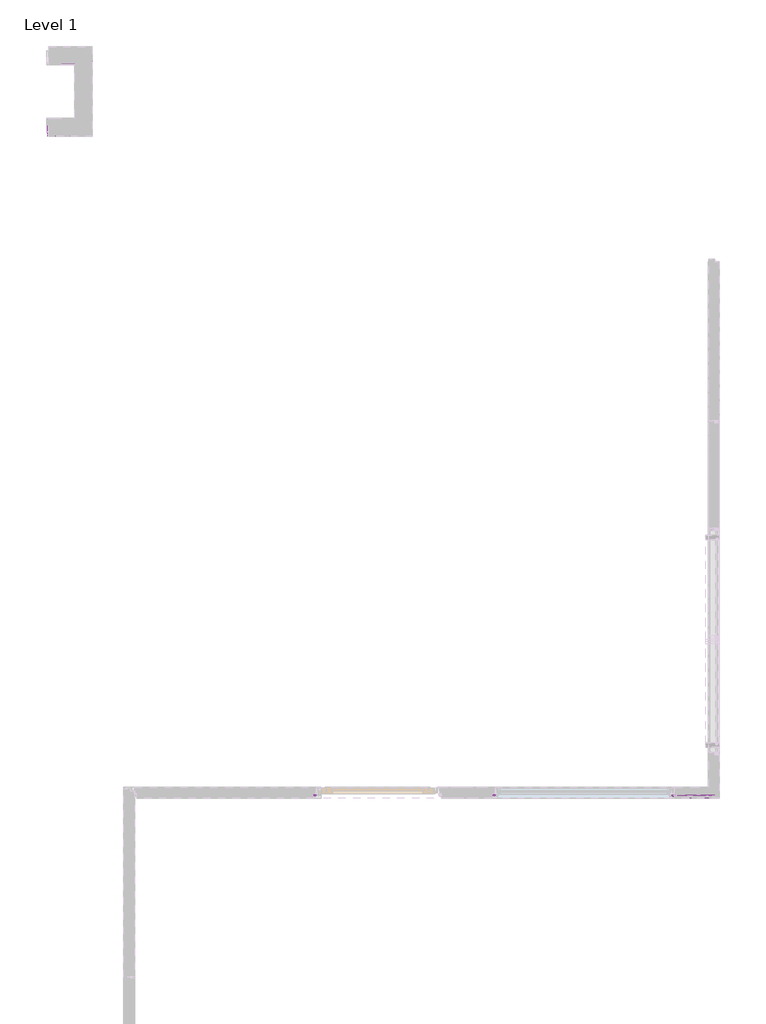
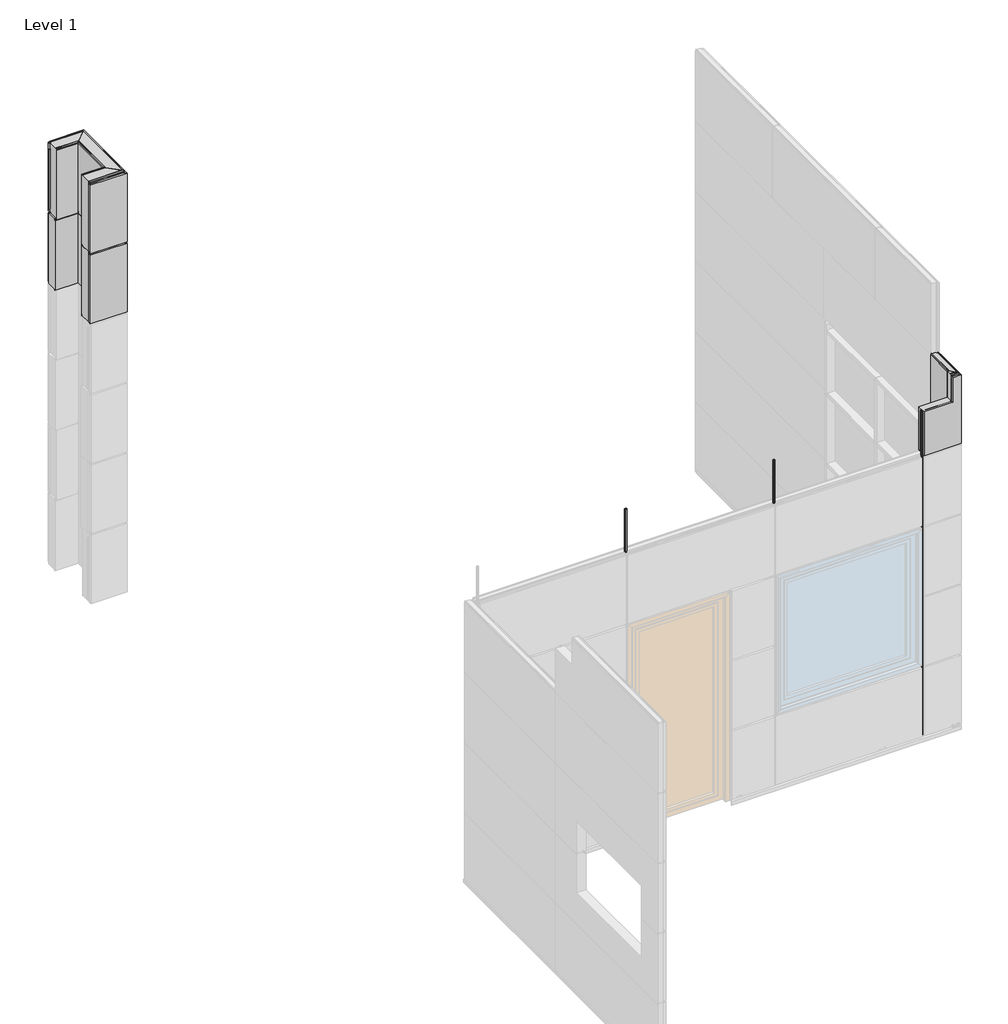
# One storey, part 2 of 8: 7 members, 5 plates.
"""IFC4 building model written with IfcOpenShell, lengths in millimetres."""

from ifc_helpers import new_model, si_unit, point, frame, frame_2d, origin, place, context, project, spatial, polyline, circle_curve, trimmed, segment, composite_curve, outline, extrude, faceted_brep, transform, mapped, element, save
from components import rectangular_mullion_dd22ac08, tr_empty_empty_edf3b101

model = new_model("IFC4")

# Units and contexts
model_context = context("Model", 3, world=origin())
ifc_project = project(units=[si_unit("LENGTHUNIT", "METRE", prefix="MILLI")], contexts=[model_context])

# Site, building, storey
site = spatial("IfcSite", under=ifc_project)
building = spatial("IfcBuilding", under=site)
storey = spatial("IfcBuildingStorey", under=building, Name="Level 1", Elevation=0.0)

# Members
placement = place(None, origin())
element("IfcMember", 1, ObjectType="Rectangular Mullion : QO-H-01_01 Joint", at=placement, inside=storey, context=model_context, shape_type="SweptSolid", body=[
    extrude(outline(composite_curve([segment(polyline([(-517.6475876, -11965.4839195), (-519.1626133, -11965.4839195), (-517.3497844, -11964.1240593), (-517.3497844, -11963.3240593), (-519.3513097, -11963.3240593), (-519.3513097, -11965.782847), (-518.2830771, -11965.782847), (-518.2830771, -11973.5607913)]), True, "CONTINUOUS"), segment(trimmed(circle_curve(frame_2d((-518.7824538, -11973.5849856)), 0.4999625), [point((-518.2830771, -11973.5607913))], [point((-518.7824538, -11974.0849481))], False, "CARTESIAN"), True, "CONTINUOUS"), segment(polyline([(-518.7824538, -11974.0849481), (-529.4962599, -11974.0849481), (-529.4962599, -11963.909622)]), True, "CONTINUOUS"), segment(trimmed(circle_curve(frame_2d((-528.8962599, -11963.909622)), 0.6), [point((-529.4962599, -11963.909622))], [point((-528.8962599, -11963.309622))], False, "CARTESIAN"), True, "CONTINUOUS"), segment(polyline([(-528.8962599, -11963.309622), (-523.3577362, -11963.309622), (-523.3577362, -11960.4941793), (-525.9563372, -11960.4941793), (-524.4175879, -11956.2506178), (-521.3943655, -11959.7995502), (-512.6008097, -11959.7995502), (-509.5775874, -11956.2506178), (-508.038838, -11960.4941793), (-510.637439, -11960.4941793), (-510.637439, -11963.309622), (-505.0989153, -11963.309622)]), True, "CONTINUOUS"), segment(trimmed(circle_curve(frame_2d((-505.0989153, -11963.909622)), 0.6), [point((-505.0989153, -11963.309622))], [point((-504.4989153, -11963.909622))], False, "CARTESIAN"), True, "CONTINUOUS"), segment(polyline([(-504.4989153, -11963.909622), (-504.4989153, -11974.0849481), (-515.2127214, -11974.0849481)]), True, "CONTINUOUS"), segment(trimmed(circle_curve(frame_2d((-515.2127214, -11973.5849856)), 0.4999625), [point((-515.2127214, -11974.0849481))], [point((-515.7120981, -11973.5607913))], False, "CARTESIAN"), True, "CONTINUOUS"), segment(polyline([(-515.7120981, -11973.5607913), (-515.7120981, -11965.782847), (-514.6438655, -11965.782847), (-514.6438655, -11963.3240593), (-516.6453908, -11963.3240593), (-516.6453908, -11964.1240593), (-514.8325619, -11965.4839195), (-516.3475876, -11965.4839195), (-516.3475876, -11974.5972287), (-508.6794739, -11974.5972287), (-507.1474985, -11975.5216377)]), True, "CONTINUOUS"), segment(trimmed(circle_curve(frame_2d((-507.3076572, -11975.7870604)), 0.31), [point((-507.1474985, -11975.5216377))], [point((-507.3076572, -11976.0970604))], False, "CARTESIAN"), True, "CONTINUOUS"), segment(polyline([(-507.3076572, -11976.0970604), (-526.6876801, -11976.0970604)]), True, "CONTINUOUS"), segment(trimmed(circle_curve(frame_2d((-526.6876801, -11975.7870604)), 0.31), [point((-526.6876801, -11976.0970604))], [point((-526.8478388, -11975.5216377))], False, "CARTESIAN"), True, "CONTINUOUS"), segment(polyline([(-526.8478388, -11975.5216377), (-525.3158634, -11974.5972287), (-517.6475876, -11974.5972287), (-517.6475876, -11965.4839195)]), True, "CONTINUOUS")], self_intersect=False)), frame((0.0, 0.0, 4150.0), z_axis=(0.0, 0.0, 1.0), x_axis=(1.0, 0.0, 0.0)), (0.0, 0.0, 1.0), 620.0),
])
element("IfcMember", 2, ObjectType="Rectangular Mullion : QO-H-01_01 Joint", at=placement, inside=storey, context=model_context, shape_type="SweptSolid", body=[
    extrude(outline(composite_curve([segment(polyline([(-4516.1475879, -11965.4839195), (-4517.6626136, -11965.4839195), (-4515.8497847, -11964.1240593), (-4515.8497847, -11963.3240593), (-4517.85131, -11963.3240593), (-4517.85131, -11965.782847), (-4516.7830774, -11965.782847), (-4516.7830774, -11973.5607913)]), True, "CONTINUOUS"), segment(trimmed(circle_curve(frame_2d((-4517.2824541, -11973.5849856)), 0.4999625), [point((-4516.7830774, -11973.5607913))], [point((-4517.2824541, -11974.0849481))], False, "CARTESIAN"), True, "CONTINUOUS"), segment(polyline([(-4517.2824541, -11974.0849481), (-4527.9962602, -11974.0849481), (-4527.9962602, -11963.909622)]), True, "CONTINUOUS"), segment(trimmed(circle_curve(frame_2d((-4527.3962602, -11963.909622)), 0.6), [point((-4527.9962602, -11963.909622))], [point((-4527.3962602, -11963.309622))], False, "CARTESIAN"), True, "CONTINUOUS"), segment(polyline([(-4527.3962602, -11963.309622), (-4521.8577365, -11963.309622), (-4521.8577365, -11960.4941793), (-4524.4563375, -11960.4941793), (-4522.9175882, -11956.2506178), (-4519.8943658, -11959.7995502), (-4511.10081, -11959.7995502), (-4508.0775877, -11956.2506178), (-4506.5388383, -11960.4941793), (-4509.1374393, -11960.4941793), (-4509.1374393, -11963.309622), (-4503.5989156, -11963.309622)]), True, "CONTINUOUS"), segment(trimmed(circle_curve(frame_2d((-4503.5989156, -11963.909622)), 0.6), [point((-4503.5989156, -11963.309622))], [point((-4502.9989156, -11963.909622))], False, "CARTESIAN"), True, "CONTINUOUS"), segment(polyline([(-4502.9989156, -11963.909622), (-4502.9989156, -11974.0849481), (-4513.7127217, -11974.0849481)]), True, "CONTINUOUS"), segment(trimmed(circle_curve(frame_2d((-4513.7127217, -11973.5849856)), 0.4999625), [point((-4513.7127217, -11974.0849481))], [point((-4514.2120984, -11973.5607913))], False, "CARTESIAN"), True, "CONTINUOUS"), segment(polyline([(-4514.2120984, -11973.5607913), (-4514.2120984, -11965.782847), (-4513.1438658, -11965.782847), (-4513.1438658, -11963.3240593), (-4515.1453911, -11963.3240593), (-4515.1453911, -11964.1240593), (-4513.3325622, -11965.4839195), (-4514.8475879, -11965.4839195), (-4514.8475879, -11974.5972287), (-4507.1794742, -11974.5972287), (-4505.6474988, -11975.5216377)]), True, "CONTINUOUS"), segment(trimmed(circle_curve(frame_2d((-4505.8076575, -11975.7870604)), 0.31), [point((-4505.6474988, -11975.5216377))], [point((-4505.8076575, -11976.0970604))], False, "CARTESIAN"), True, "CONTINUOUS"), segment(polyline([(-4505.8076575, -11976.0970604), (-4525.1876804, -11976.0970604)]), True, "CONTINUOUS"), segment(trimmed(circle_curve(frame_2d((-4525.1876804, -11975.7870604)), 0.31), [point((-4525.1876804, -11976.0970604))], [point((-4525.3478391, -11975.5216377))], False, "CARTESIAN"), True, "CONTINUOUS"), segment(polyline([(-4525.3478391, -11975.5216377), (-4523.8158637, -11974.5972287), (-4516.1475879, -11974.5972287), (-4516.1475879, -11965.4839195)]), True, "CONTINUOUS")], self_intersect=False)), frame((0.0, 0.0, 4150.0), z_axis=(0.0, 0.0, 1.0), x_axis=(1.0, 0.0, 0.0)), (0.0, 0.0, 1.0), 620.0),
])
element("IfcMember", 3, ObjectType="Rectangular Mullion : QO-H-01_01 Joint", at=placement, inside=storey, context=model_context, shape_type="SweptSolid", body=[
    extrude(outline(composite_curve([segment(polyline([(-2516.1475879, -11965.4839195), (-2517.6626136, -11965.4839195), (-2515.8497847, -11964.1240593), (-2515.8497847, -11963.3240593), (-2517.85131, -11963.3240593), (-2517.85131, -11965.782847), (-2516.7830774, -11965.782847), (-2516.7830774, -11973.5607913)]), True, "CONTINUOUS"), segment(trimmed(circle_curve(frame_2d((-2517.2824541, -11973.5849856)), 0.4999625), [point((-2516.7830774, -11973.5607913))], [point((-2517.2824541, -11974.0849481))], False, "CARTESIAN"), True, "CONTINUOUS"), segment(polyline([(-2517.2824541, -11974.0849481), (-2527.9962602, -11974.0849481), (-2527.9962602, -11963.909622)]), True, "CONTINUOUS"), segment(trimmed(circle_curve(frame_2d((-2527.3962602, -11963.909622)), 0.6), [point((-2527.9962602, -11963.909622))], [point((-2527.3962602, -11963.309622))], False, "CARTESIAN"), True, "CONTINUOUS"), segment(polyline([(-2527.3962602, -11963.309622), (-2521.8577365, -11963.309622), (-2521.8577365, -11960.4941793), (-2524.4563375, -11960.4941793), (-2522.9175882, -11956.2506178), (-2519.8943658, -11959.7995502), (-2511.10081, -11959.7995502), (-2508.0775877, -11956.2506178), (-2506.5388383, -11960.4941793), (-2509.1374393, -11960.4941793), (-2509.1374393, -11963.309622), (-2503.5989156, -11963.309622)]), True, "CONTINUOUS"), segment(trimmed(circle_curve(frame_2d((-2503.5989156, -11963.909622)), 0.6), [point((-2503.5989156, -11963.309622))], [point((-2502.9989156, -11963.909622))], False, "CARTESIAN"), True, "CONTINUOUS"), segment(polyline([(-2502.9989156, -11963.909622), (-2502.9989156, -11974.0849481), (-2513.7127217, -11974.0849481)]), True, "CONTINUOUS"), segment(trimmed(circle_curve(frame_2d((-2513.7127217, -11973.5849856)), 0.4999625), [point((-2513.7127217, -11974.0849481))], [point((-2514.2120984, -11973.5607913))], False, "CARTESIAN"), True, "CONTINUOUS"), segment(polyline([(-2514.2120984, -11973.5607913), (-2514.2120984, -11965.782847), (-2513.1438658, -11965.782847), (-2513.1438658, -11963.3240593), (-2515.1453911, -11963.3240593), (-2515.1453911, -11964.1240593), (-2513.3325622, -11965.4839195), (-2514.8475879, -11965.4839195), (-2514.8475879, -11974.5972287), (-2507.1794742, -11974.5972287), (-2505.6474988, -11975.5216377)]), True, "CONTINUOUS"), segment(trimmed(circle_curve(frame_2d((-2505.8076575, -11975.7870604)), 0.31), [point((-2505.6474988, -11975.5216377))], [point((-2505.8076575, -11976.0970604))], False, "CARTESIAN"), True, "CONTINUOUS"), segment(polyline([(-2505.8076575, -11976.0970604), (-2525.1876804, -11976.0970604)]), True, "CONTINUOUS"), segment(trimmed(circle_curve(frame_2d((-2525.1876804, -11975.7870604)), 0.31), [point((-2525.1876804, -11976.0970604))], [point((-2525.3478391, -11975.5216377))], False, "CARTESIAN"), True, "CONTINUOUS"), segment(polyline([(-2525.3478391, -11975.5216377), (-2523.8158637, -11974.5972287), (-2516.1475879, -11974.5972287), (-2516.1475879, -11965.4839195)]), True, "CONTINUOUS")], self_intersect=False)), frame((0.0, 0.0, 4150.0), z_axis=(0.0, 0.0, 1.0), x_axis=(1.0, 0.0, 0.0)), (0.0, 0.0, 1.0), 620.0),
])
rectangular_mullion_shape = rectangular_mullion_dd22ac08(model_context)
element("IfcMember", 4, ObjectType="Rectangular Mullion : QO-H-01_01 Joint", at=placement, inside=storey, context=model_context, shape_type="MappedRepresentation", body=[
    mapped(rectangular_mullion_shape, transform((-517.0, -12000.1, 150.0), x_axis=(-1.0, 0.0, 0.0), y_axis=(0.0, 1.0, 0.0), z_axis=(0.0, 0.0, -1.0))),
])
element("IfcMember", 5, ObjectType="Rectangular Mullion : QO-H-01_01 Joint", at=placement, inside=storey, context=model_context, shape_type="MappedRepresentation", body=[
    mapped(rectangular_mullion_shape, transform((-517.0, -12000.1, 1150.0), x_axis=(-1.0, 0.0, 0.0), y_axis=(0.0, 1.0, 0.0), z_axis=(0.0, 0.0, -1.0))),
])
element("IfcMember", 6, ObjectType="Rectangular Mullion : QO-H-01_01 Joint", at=placement, inside=storey, context=model_context, shape_type="MappedRepresentation", body=[
    mapped(rectangular_mullion_shape, transform((-517.0, -12000.1, 2150.0), x_axis=(-1.0, 0.0, 0.0), y_axis=(0.0, 1.0, 0.0), z_axis=(0.0, 0.0, -1.0))),
])
element("IfcMember", 7, ObjectType="Rectangular Mullion : QO-H-01_01 Joint", at=placement, inside=storey, context=model_context, shape_type="MappedRepresentation", body=[
    mapped(rectangular_mullion_shape, transform((-517.0, -12000.1, 3150.0), x_axis=(-1.0, 0.0, 0.0), y_axis=(0.0, 1.0, 0.0), z_axis=(0.0, 0.0, -1.0))),
])

# Plates
element("IfcPlate", 8, ObjectType="TR_C_H_QBISS_Corner_Tr_A : QB TYP 1", at=placement, inside=storey, context=model_context, shape_type="SolidModel", body=[
    faceted_brep([(-24.0, -11512.8, 5144.5), (-24.0, -11512.8, 5124.5), (-25.4998317, -11512.8, 5124.5), (-25.4998317, -11512.8, 5131.3023028), (-27.9998293, -11512.8, 5131.3023028), (-27.9998293, -11512.8, 5130.5023028), (-28.7998428, -11512.8, 5130.5023028), (-28.7998428, -11512.8, 5138.5023593), (-27.9998293, -11512.8, 5138.5023593), (-27.9998293, -11512.8, 5137.7023593), (-25.4998317, -11512.8, 5137.7023593), (-25.4998317, -11512.8, 5144.5), (-25.4998317, -11974.6001683, 5144.5), (-120.0, -11974.6001683, 5144.5), (-120.0, -11976.1, 5144.5), (-24.0, -11976.1, 5144.5), (-25.4998317, -11974.6001683, 5137.7023593), (-120.0, -11974.6001683, 5137.7023593), (-27.9998293, -11972.1001707, 5137.7023593), (-120.0, -11972.1001707, 5137.7023593), (-27.9998293, -11972.1001707, 5138.5023593), (-120.0, -11972.1001707, 5138.5023593), (-28.7998428, -11971.3001572, 5138.5023593), (-120.0, -11971.3001572, 5138.5023593), (-28.7998428, -11971.3001572, 5130.5023028), (-120.0, -11971.3001572, 5130.5023028), (-27.9998293, -11972.1001707, 5130.5023028), (-120.0, -11972.1001707, 5130.5023028), (-27.9998293, -11972.1001707, 5131.3023028), (-120.0, -11972.1001707, 5131.3023028), (-25.4998317, -11974.6001683, 5131.3023028), (-120.0, -11974.6001683, 5131.3023028), (-25.4998317, -11974.6001683, 5124.5), (-120.0, -11974.6001683, 5124.5), (-24.0, -11976.1, 5124.5), (-120.0, -11976.1, 5124.5)], [[[0, 1, 2, 3, 4, 5, 6, 7, 8, 9, 10, 11]], [[0, 11, 12, 13, 14, 15]], [[12, 16, 17, 13]], [[10, 9, 18, 19, 17, 16]], [[18, 20, 21, 19]], [[8, 7, 22, 23, 21, 20]], [[22, 24, 25, 23]], [[6, 5, 26, 27, 25, 24]], [[26, 28, 29, 27]], [[4, 3, 30, 31, 29, 28]], [[30, 32, 33, 31]], [[2, 1, 34, 35, 33, 32]], [[34, 15, 14, 35]], [[11, 10, 16, 12]], [[9, 8, 20, 18]], [[7, 6, 24, 22]], [[5, 4, 28, 26]], [[3, 2, 32, 30]], [[1, 0, 15, 34]], [[14, 13, 17, 19, 21, 23, 25, 27, 29, 31, 33, 35]]]),
    faceted_brep([(-108.0, -11487.7, 4150.0), (-108.0, -11487.7, 4163.0), (-114.0, -11487.7, 4163.0), (-114.0, -11487.7, 4142.0), (-120.0, -11487.7, 4142.0), (-120.0, -11487.7, 5136.0), (-114.0, -11487.7, 5142.0), (-114.0, -11487.7, 5160.0), (-108.0, -11487.7, 5160.0), (-108.0, -11487.7, 5150.0), (-49.0, -11487.7, 5150.0), (-49.0, -11487.7, 4150.0), (-49.0, -11512.8, 4150.0), (-39.0, -11512.8, 4150.0), (-39.0, -11961.1, 4150.0), (-108.0, -11892.1, 4150.0), (-39.0, -11512.8, 4163.0), (-39.0, -11961.1, 4163.0), (-29.0, -11512.8, 4163.0), (-29.0, -11971.1, 4163.0), (-29.0, -11512.8, 4146.0), (-29.0, -11971.1, 4146.0), (0.0, -11512.8, 4146.0), (0.0, -12000.1, 4146.0), (0.0, -11512.8, 5123.0), (0.0, -12000.1, 5123.0), (-29.0, -11512.8, 5123.0), (-29.0, -11971.1, 5123.0), (-29.0, -11512.8, 5160.0), (-29.0, -11971.1, 5160.0), (-39.0, -11512.8, 5160.0), (-39.0, -11961.1, 5160.0), (-39.0, -11512.8, 5150.0), (-39.0, -11961.1, 5150.0), (-108.0, -11892.1, 5150.0), (-49.0, -11512.8, 5150.0), (-108.0, -11892.1, 5160.0), (-114.0, -11886.1, 5160.0), (-114.0, -11886.1, 5142.0), (-120.0, -11880.1, 5136.0), (-120.0, -11880.1, 4142.0), (-114.0, -11886.1, 4142.0), (-114.0, -11886.1, 4163.0), (-108.0, -11892.1, 4163.0)], [[[0, 1, 2, 3, 4, 5, 6, 7, 8, 9, 10, 11]], [[0, 11, 12, 13, 14, 15]], [[13, 16, 17, 14]], [[16, 18, 19, 17]], [[18, 20, 21, 19]], [[22, 23, 21, 20]], [[23, 22, 24, 25]], [[25, 24, 26, 27]], [[26, 28, 29, 27]], [[28, 30, 31, 29]], [[30, 32, 33, 31]], [[10, 9, 34, 33, 32, 35]], [[9, 8, 36, 34]], [[8, 7, 37, 36]], [[7, 6, 38, 37]], [[6, 5, 39, 38]], [[5, 4, 40, 39]], [[4, 3, 41, 40]], [[3, 2, 42, 41]], [[2, 1, 43, 42]], [[1, 0, 15, 43]], [[35, 12, 11, 10]], [[12, 35, 32, 30, 28, 26, 24, 22, 20, 18, 16, 13]], [[15, 14, 17, 19, 21, 23, 25, 27, 29, 31, 33, 34, 36, 37, 38, 39, 40, 41, 42, 43]]]),
    faceted_brep([(-504.5, -11880.1, 4142.0), (-504.5, -11886.1, 4142.0), (-504.5, -11886.1, 4163.0), (-504.5, -11892.1, 4163.0), (-504.5, -11892.1, 4150.0), (-504.5, -11951.1, 4150.0), (-504.5, -11951.1, 4770.0), (-504.5, -11880.1, 4770.0), (-120.0, -11880.1, 4142.0), (-114.0, -11886.1, 4142.0), (-114.0, -11886.1, 4163.0), (-108.0, -11892.1, 4163.0), (-108.0, -11892.1, 4150.0), (-39.0, -11961.1, 4150.0), (-504.3, -11961.1, 4150.0), (-504.3, -11951.1, 4150.0), (-39.0, -11961.1, 4163.0), (-504.3, -11961.1, 4163.0), (-29.0, -11971.1, 4163.0), (-504.3, -11971.1, 4163.0), (-29.0, -11971.1, 4146.0), (-504.3, -11971.1, 4146.0), (0.0, -12000.1, 4146.0), (-504.3, -12000.1, 4146.0), (0.0, -12000.1, 5123.0), (-120.0, -12000.1, 5123.0), (-120.0, -12000.1, 4770.0), (-504.3, -12000.1, 4770.0), (-29.0, -11971.1, 5123.0), (-120.0, -11971.1, 5123.0), (-29.0, -11971.1, 5160.0), (-120.0, -11971.1, 5160.0), (-39.0, -11961.1, 5160.0), (-120.0, -11961.1, 5160.0), (-39.0, -11961.1, 5150.0), (-120.0, -11961.1, 5150.0), (-108.0, -11892.1, 5150.0), (-120.0, -11892.1, 5150.0), (-108.0, -11892.1, 5160.0), (-120.0, -11892.1, 5160.0), (-114.0, -11886.1, 5160.0), (-120.0, -11886.1, 5160.0), (-114.0, -11886.1, 5142.0), (-120.0, -11886.1, 5142.0), (-120.0, -11880.1, 5136.0), (-120.0, -11880.1, 4770.0), (-504.3, -11951.1, 4770.0)], [[[0, 1, 2, 3, 4, 5, 6, 7]], [[1, 0, 8, 9]], [[2, 1, 9, 10]], [[3, 2, 10, 11]], [[4, 3, 11, 12]], [[5, 4, 12, 13, 14, 15]], [[14, 13, 16, 17]], [[17, 16, 18, 19]], [[19, 18, 20, 21]], [[21, 20, 22, 23]], [[23, 22, 24, 25, 26, 27]], [[24, 28, 29, 25]], [[28, 30, 31, 29]], [[30, 32, 33, 31]], [[32, 34, 35, 33]], [[34, 36, 37, 35]], [[36, 38, 39, 37]], [[38, 40, 41, 39]], [[40, 42, 43, 41]], [[42, 44, 43]], [[8, 0, 7, 45]], [[5, 15, 46, 6]], [[15, 14, 17, 19, 21, 23, 27, 46]], [[9, 8, 45, 44, 42, 40, 38, 36, 34, 32, 30, 28, 24, 22, 20, 18, 16, 13, 12, 11, 10]], [[45, 26, 25, 29, 31, 33, 35, 37, 39, 41, 43, 44]], [[26, 45, 7, 6, 46, 27]]]),
    extrude(outline(polyline([(-529.5, -11951.1), (-504.3, -11951.1), (-504.3, -11951.9261798), (-528.7, -11951.9261798), (-528.7, -11956.1), (-529.5, -11956.1), (-529.5, -11951.1)])), frame((0.0, 0.0, 4204.0), z_axis=(0.0, 0.0, 1.0), x_axis=(1.0, 0.0, 0.0)), (0.0, 0.0, 1.0), 566.0),
])
element("IfcPlate", 9, ObjectType="TR_C_H_QBISS_U_Corner_Tr : QB TYP 5", at=placement, inside=storey, context=model_context, shape_type="Brep", body=[
    faceted_brep([(-7499.8, -4586.100171, 4988.5023593), (-7499.8, -4586.100171, 4987.7023593), (-7027.9998293, -4586.100171, 4987.7023593), (-7027.9998293, -4586.100171, 4988.5023593), (-7499.8, -4588.6001686, 4981.3023028), (-7499.8, -4586.100171, 4981.3023028), (-7027.9998293, -4586.100171, 4981.3023028), (-7027.9998293, -3642.0998296, 4981.3023028), (-7487.3, -3642.0998296, 4981.3023028), (-7487.3, -3639.599832, 4981.3023028), (-7025.4998317, -3639.599832, 4981.3023028), (-7025.4998317, -4588.6001686, 4981.3023028), (-7499.8, -4590.1000003, 4994.5), (-7499.8, -4588.6001686, 4994.5), (-7499.8, -4588.6001686, 4987.7023593), (-7499.8, -4585.3001575, 4988.5023593), (-7499.8, -4585.3001575, 4980.5023028), (-7499.8, -4586.100171, 4980.5023028), (-7499.8, -4588.6001686, 4974.5), (-7499.8, -4590.1000003, 4974.5), (-7024.0, -4590.1000003, 4994.5), (-7024.0, -3638.1000003, 4994.5), (-7487.3, -3638.1000003, 4994.5), (-7487.3, -3639.599832, 4994.5), (-7025.4998317, -3639.599832, 4994.5), (-7025.4998317, -4588.6001686, 4994.5), (-7025.4998317, -3639.599832, 4974.5), (-7487.3, -3639.599832, 4974.5), (-7487.3, -3638.1000003, 4974.5), (-7487.3, -3642.0998296, 4980.5023028), (-7487.3, -3642.8998431, 4980.5023028), (-7487.3, -3642.8998431, 4988.5023593), (-7487.3, -3642.0998296, 4988.5023593), (-7487.3, -3642.0998296, 4987.7023593), (-7487.3, -3639.599832, 4987.7023593), (-7025.4998317, -4588.6001686, 4987.7023593), (-7025.4998317, -3639.599832, 4987.7023593), (-7027.9998293, -3642.0998296, 4987.7023593), (-7027.9998293, -3642.0998296, 4988.5023593), (-7028.7998428, -3642.8998431, 4988.5023593), (-7028.7998428, -4585.3001575, 4988.5023593), (-7028.7998428, -4585.3001575, 4980.5023028), (-7028.7998428, -3642.8998431, 4980.5023028), (-7027.9998293, -3642.0998296, 4980.5023028), (-7027.9998293, -4586.100171, 4980.5023028), (-7025.4998317, -4588.6001686, 4974.5), (-7024.0, -3638.1000003, 4974.5), (-7024.0, -4590.1000003, 4974.5)], [[[0, 1, 2, 3]], [[4, 5, 6, 7, 8, 9, 10, 11]], [[12, 13, 14, 1, 0, 15, 16, 17, 5, 4, 18, 19]], [[13, 12, 20, 21, 22, 23, 24, 25]], [[26, 10, 9, 27]], [[22, 28, 27, 9, 8, 29, 30, 31, 32, 33, 34, 23]], [[14, 13, 25, 35]], [[1, 14, 35, 36, 34, 33, 37, 2]], [[15, 0, 3, 38, 32, 31, 39, 40]], [[16, 15, 40, 41]], [[17, 16, 41, 42, 30, 29, 43, 44]], [[5, 17, 44, 6]], [[18, 4, 11, 45]], [[19, 18, 45, 26, 27, 28, 46, 47]], [[12, 19, 47, 20]], [[35, 25, 24, 36]], [[3, 2, 37, 38]], [[41, 40, 39, 42]], [[6, 44, 43, 7]], [[45, 11, 10, 26]], [[20, 47, 46, 21]], [[36, 24, 23, 34]], [[38, 37, 33, 32]], [[42, 39, 31, 30]], [[7, 43, 29, 8]], [[21, 46, 28, 22]]]),
    faceted_brep([(-7039.0, -4575.1000003, 4000.0), (-7188.0, -4426.1000003, 4000.0), (-7188.0, -3802.1000003, 4000.0), (-7039.0, -3653.1000003, 4000.0), (-7039.0, -4575.1000003, 4013.0), (-7039.0, -3653.1000003, 4013.0), (-7029.0, -4585.1000003, 4013.0), (-7029.0, -3643.1000003, 4013.0), (-7029.0, -4585.1000003, 3996.0), (-7029.0, -3643.1000003, 3996.0), (-7000.0, -3614.1000003, 3996.0), (-7000.0, -4614.1000003, 3996.0), (-7000.0, -3614.1000003, 4973.0), (-7000.0, -4614.1000003, 4973.0), (-7029.0, -3643.1000003, 4973.0), (-7029.0, -4585.1000003, 4973.0), (-7029.0, -4585.1000003, 5010.0), (-7029.0, -3643.1000003, 5010.0), (-7039.0, -4575.1000003, 5010.0), (-7039.0, -3653.1000003, 5010.0), (-7039.0, -4575.1000003, 5000.0), (-7039.0, -3653.1000003, 5000.0), (-7188.0, -4426.1000003, 5000.0), (-7188.0, -3802.1000003, 5000.0), (-7188.0, -4426.1000003, 5010.0), (-7188.0, -3802.1000003, 5010.0), (-7194.0, -4420.1000003, 5010.0), (-7194.0, -3808.1000003, 5010.0), (-7194.0, -4420.1000003, 4992.0), (-7194.0, -3808.1000003, 4992.0), (-7200.0, -4414.1000003, 4986.0), (-7200.0, -3814.1000003, 4986.0), (-7200.0, -4414.1000003, 3992.0), (-7200.0, -3814.1000003, 3992.0), (-7194.0, -4420.1000003, 3992.0), (-7194.0, -3808.1000003, 3992.0), (-7194.0, -4420.1000003, 4013.0), (-7194.0, -3808.1000003, 4013.0), (-7188.0, -4426.1000003, 4013.0), (-7188.0, -3802.1000003, 4013.0)], [[[0, 1, 2, 3]], [[4, 0, 3, 5]], [[6, 4, 5, 7]], [[8, 6, 7, 9]], [[10, 11, 8, 9]], [[11, 10, 12, 13]], [[13, 12, 14, 15]], [[16, 15, 14, 17]], [[18, 16, 17, 19]], [[20, 18, 19, 21]], [[22, 20, 21, 23]], [[24, 22, 23, 25]], [[26, 24, 25, 27]], [[28, 26, 27, 29]], [[30, 28, 29, 31]], [[32, 30, 31, 33]], [[34, 32, 33, 35]], [[36, 34, 35, 37]], [[38, 36, 37, 39]], [[1, 38, 39, 2]], [[1, 0, 4, 6, 8, 11, 13, 15, 16, 18, 20, 22, 24, 26, 28, 30, 32, 34, 36, 38]], [[3, 2, 39, 37, 35, 33, 31, 29, 27, 25, 23, 21, 19, 17, 14, 12, 10, 9, 7, 5]]]),
    faceted_brep([(-7500.0, -4414.1000003, 3992.0), (-7500.0, -4420.1000003, 3992.0), (-7500.0, -4420.1000003, 4013.0), (-7500.0, -4426.1000003, 4013.0), (-7500.0, -4426.1000003, 4000.0), (-7500.0, -4565.1000003, 4000.0), (-7500.0, -4565.1000003, 5000.0), (-7500.0, -4426.1000003, 5000.0), (-7500.0, -4426.1000003, 5010.0), (-7500.0, -4420.1000003, 5010.0), (-7500.0, -4420.1000003, 4992.0), (-7500.0, -4414.1000003, 4986.0), (-7200.0, -4414.1000003, 3992.0), (-7194.0, -4420.1000003, 3992.0), (-7194.0, -4420.1000003, 4013.0), (-7188.0, -4426.1000003, 4013.0), (-7188.0, -4426.1000003, 4000.0), (-7039.0, -4575.1000003, 4000.0), (-7499.8, -4575.1000003, 4000.0), (-7499.8, -4565.1000003, 4000.0), (-7499.8, -4575.1000003, 4013.0), (-7039.0, -4575.1000003, 4013.0), (-7499.8, -4585.1000003, 4013.0), (-7029.0, -4585.1000003, 4013.0), (-7499.8, -4585.1000003, 3996.0), (-7029.0, -4585.1000003, 3996.0), (-7000.0, -4614.1000003, 3996.0), (-7499.8, -4614.1000003, 3996.0), (-7000.0, -4614.1000003, 4973.0), (-7499.8, -4614.1000003, 4973.0), (-7029.0, -4585.1000003, 4973.0), (-7499.8, -4585.1000003, 4973.0), (-7499.8, -4585.1000003, 5010.0), (-7029.0, -4585.1000003, 5010.0), (-7499.8, -4575.1000003, 5010.0), (-7039.0, -4575.1000003, 5010.0), (-7499.8, -4575.1000003, 5000.0), (-7039.0, -4575.1000003, 5000.0), (-7499.8, -4565.1000003, 5000.0), (-7188.0, -4426.1000003, 5000.0), (-7188.0, -4426.1000003, 5010.0), (-7194.0, -4420.1000003, 5010.0), (-7194.0, -4420.1000003, 4992.0), (-7200.0, -4414.1000003, 4986.0)], [[[0, 1, 2, 3, 4, 5, 6, 7, 8, 9, 10, 11]], [[1, 0, 12, 13]], [[2, 1, 13, 14]], [[3, 2, 14, 15]], [[4, 3, 15, 16]], [[5, 4, 16, 17, 18, 19]], [[20, 18, 17, 21]], [[22, 20, 21, 23]], [[24, 22, 23, 25]], [[26, 27, 24, 25]], [[27, 26, 28, 29]], [[29, 28, 30, 31]], [[32, 31, 30, 33]], [[34, 32, 33, 35]], [[36, 34, 35, 37]], [[7, 6, 38, 36, 37, 39]], [[8, 7, 39, 40]], [[9, 8, 40, 41]], [[10, 9, 41, 42]], [[11, 10, 42, 43]], [[0, 11, 43, 12]], [[19, 38, 6, 5]], [[38, 19, 18, 20, 22, 24, 27, 29, 31, 32, 34, 36]], [[13, 12, 43, 42, 41, 40, 39, 37, 35, 33, 30, 28, 26, 25, 23, 21, 17, 16, 15, 14]]]),
    faceted_brep([(-7512.4, -3814.1000003, 3992.0), (-7512.4, -3814.1000003, 4986.0), (-7512.4, -3808.1000003, 4992.0), (-7512.4, -3808.1000003, 5010.0), (-7512.4, -3802.1000003, 5010.0), (-7512.4, -3802.1000003, 5000.0), (-7512.4, -3663.1000003, 5000.0), (-7512.4, -3663.1000003, 4000.0), (-7512.4, -3802.1000003, 4000.0), (-7512.4, -3802.1000003, 4013.0), (-7512.4, -3808.1000003, 4013.0), (-7512.4, -3808.1000003, 3992.0), (-7194.0, -3808.1000003, 3992.0), (-7200.0, -3814.1000003, 3992.0), (-7194.0, -3808.1000003, 4013.0), (-7188.0, -3802.1000003, 4013.0), (-7188.0, -3802.1000003, 4000.0), (-7487.3, -3663.1000003, 4000.0), (-7487.3, -3653.1000003, 4000.0), (-7039.0, -3653.1000003, 4000.0), (-7487.3, -3653.1000003, 4013.0), (-7039.0, -3653.1000003, 4013.0), (-7487.3, -3643.1000003, 4013.0), (-7029.0, -3643.1000003, 4013.0), (-7487.3, -3643.1000003, 3996.0), (-7029.0, -3643.1000003, 3996.0), (-7000.0, -3614.1000003, 3996.0), (-7487.3, -3614.1000003, 3996.0), (-7487.3, -3614.1000003, 4973.0), (-7000.0, -3614.1000003, 4973.0), (-7487.3, -3643.1000003, 4973.0), (-7029.0, -3643.1000003, 4973.0), (-7487.3, -3643.1000003, 5010.0), (-7029.0, -3643.1000003, 5010.0), (-7487.3, -3653.1000003, 5010.0), (-7039.0, -3653.1000003, 5010.0), (-7487.3, -3653.1000003, 5000.0), (-7039.0, -3653.1000003, 5000.0), (-7188.0, -3802.1000003, 5000.0), (-7487.3, -3663.1000003, 5000.0), (-7188.0, -3802.1000003, 5010.0), (-7194.0, -3808.1000003, 5010.0), (-7194.0, -3808.1000003, 4992.0), (-7200.0, -3814.1000003, 4986.0)], [[[0, 1, 2, 3, 4, 5, 6, 7, 8, 9, 10, 11]], [[11, 12, 13, 0]], [[10, 14, 12, 11]], [[9, 15, 14, 10]], [[8, 16, 15, 9]], [[7, 17, 18, 19, 16, 8]], [[20, 21, 19, 18]], [[22, 23, 21, 20]], [[24, 25, 23, 22]], [[26, 25, 24, 27]], [[27, 28, 29, 26]], [[28, 30, 31, 29]], [[32, 33, 31, 30]], [[34, 35, 33, 32]], [[36, 37, 35, 34]], [[5, 38, 37, 36, 39, 6]], [[4, 40, 38, 5]], [[3, 41, 40, 4]], [[2, 42, 41, 3]], [[1, 43, 42, 2]], [[0, 13, 43, 1]], [[17, 7, 6, 39]], [[39, 36, 34, 32, 30, 28, 27, 24, 22, 20, 18, 17]], [[12, 14, 15, 16, 19, 21, 23, 25, 26, 29, 31, 33, 35, 37, 38, 40, 41, 42, 43, 13]]]),
])
element("IfcPlate", 10, ObjectType="TR_C_H_QBISS_U_Corner_Tr : QB TYP 6", at=placement, inside=storey, context=model_context, shape_type="SolidModel", body=[
    faceted_brep([(-7499.8, -4586.100171, 5988.5023593), (-7499.8, -4586.100171, 5987.7023593), (-7027.9998293, -4586.100171, 5987.7023593), (-7027.9998293, -4586.100171, 5988.5023593), (-7499.8, -4588.6001686, 5981.3023028), (-7499.8, -4586.100171, 5981.3023028), (-7027.9998293, -4586.100171, 5981.3023028), (-7027.9998293, -3642.0998296, 5981.3023028), (-7487.3, -3642.0998296, 5981.3023028), (-7487.3, -3639.599832, 5981.3023028), (-7025.4998317, -3639.599832, 5981.3023028), (-7025.4998317, -4588.6001686, 5981.3023028), (-7499.8, -4590.1000003, 5994.5), (-7499.8, -4588.6001686, 5994.5), (-7499.8, -4588.6001686, 5987.7023593), (-7499.8, -4585.3001575, 5988.5023593), (-7499.8, -4585.3001575, 5980.5023028), (-7499.8, -4586.100171, 5980.5023028), (-7499.8, -4588.6001686, 5974.5), (-7499.8, -4590.1000003, 5974.5), (-7024.0, -4590.1000003, 5994.5), (-7024.0, -3638.1000003, 5994.5), (-7487.3, -3638.1000003, 5994.5), (-7487.3, -3639.599832, 5994.5), (-7025.4998317, -3639.599832, 5994.5), (-7025.4998317, -4588.6001686, 5994.5), (-7025.4998317, -3639.599832, 5974.5), (-7487.3, -3639.599832, 5974.5), (-7487.3, -3638.1000003, 5974.5), (-7487.3, -3642.0998296, 5980.5023028), (-7487.3, -3642.8998431, 5980.5023028), (-7487.3, -3642.8998431, 5988.5023593), (-7487.3, -3642.0998296, 5988.5023593), (-7487.3, -3642.0998296, 5987.7023593), (-7487.3, -3639.599832, 5987.7023593), (-7025.4998317, -4588.6001686, 5987.7023593), (-7025.4998317, -3639.599832, 5987.7023593), (-7027.9998293, -3642.0998296, 5987.7023593), (-7027.9998293, -3642.0998296, 5988.5023593), (-7028.7998428, -3642.8998431, 5988.5023593), (-7028.7998428, -4585.3001575, 5988.5023593), (-7028.7998428, -4585.3001575, 5980.5023028), (-7028.7998428, -3642.8998431, 5980.5023028), (-7027.9998293, -3642.0998296, 5980.5023028), (-7027.9998293, -4586.100171, 5980.5023028), (-7025.4998317, -4588.6001686, 5974.5), (-7024.0, -3638.1000003, 5974.5), (-7024.0, -4590.1000003, 5974.5)], [[[0, 1, 2, 3]], [[4, 5, 6, 7, 8, 9, 10, 11]], [[12, 13, 14, 1, 0, 15, 16, 17, 5, 4, 18, 19]], [[13, 12, 20, 21, 22, 23, 24, 25]], [[26, 10, 9, 27]], [[22, 28, 27, 9, 8, 29, 30, 31, 32, 33, 34, 23]], [[14, 13, 25, 35]], [[1, 14, 35, 36, 34, 33, 37, 2]], [[15, 0, 3, 38, 32, 31, 39, 40]], [[16, 15, 40, 41]], [[17, 16, 41, 42, 30, 29, 43, 44]], [[5, 17, 44, 6]], [[18, 4, 11, 45]], [[19, 18, 45, 26, 27, 28, 46, 47]], [[12, 19, 47, 20]], [[35, 25, 24, 36]], [[3, 2, 37, 38]], [[41, 40, 39, 42]], [[6, 44, 43, 7]], [[45, 11, 10, 26]], [[20, 47, 46, 21]], [[36, 24, 23, 34]], [[38, 37, 33, 32]], [[42, 39, 31, 30]], [[7, 43, 29, 8]], [[21, 46, 28, 22]]]),
    faceted_brep([(-7039.0, -4575.1000003, 5000.0), (-7188.0, -4426.1000003, 5000.0), (-7188.0, -3802.1000003, 5000.0), (-7039.0, -3653.1000003, 5000.0), (-7039.0, -4575.1000003, 5013.0), (-7039.0, -3653.1000003, 5013.0), (-7029.0, -4585.1000003, 4996.0), (-7029.0, -4585.1000003, 5013.0), (-7029.0, -3643.1000003, 5013.0), (-7029.0, -3643.1000003, 4996.0), (-7000.0, -3614.1000003, 4996.0), (-7000.0, -4614.1000003, 4996.0), (-7000.0, -3614.1000003, 5973.0), (-7000.0, -4614.1000003, 5973.0), (-7029.0, -3643.1000003, 5973.0), (-7029.0, -4585.1000003, 5973.0), (-7029.0, -4585.1000003, 6010.0), (-7029.0, -3643.1000003, 6010.0), (-7039.0, -4575.1000003, 6010.0), (-7039.0, -3653.1000003, 6010.0), (-7039.0, -4575.1000003, 6000.0), (-7039.0, -3653.1000003, 6000.0), (-7188.0, -4426.1000003, 6000.0), (-7188.0, -3802.1000003, 6000.0), (-7188.0, -4426.1000003, 6010.0), (-7188.0, -3802.1000003, 6010.0), (-7194.0, -4420.1000003, 6010.0), (-7194.0, -3808.1000003, 6010.0), (-7194.0, -4420.1000003, 5992.0), (-7194.0, -3808.1000003, 5992.0), (-7200.0, -4414.1000003, 5986.0), (-7200.0, -3814.1000003, 5986.0), (-7200.0, -4414.1000003, 4992.0), (-7200.0, -3814.1000003, 4992.0), (-7194.0, -4420.1000003, 4992.0), (-7194.0, -3808.1000003, 4992.0), (-7194.0, -4420.1000003, 5013.0), (-7194.0, -3808.1000003, 5013.0), (-7188.0, -4426.1000003, 5013.0), (-7188.0, -3802.1000003, 5013.0)], [[[0, 1, 2, 3]], [[4, 0, 3, 5]], [[6, 7, 8, 9]], [[10, 11, 6, 9]], [[7, 4, 5, 8]], [[11, 10, 12, 13]], [[13, 12, 14, 15]], [[16, 15, 14, 17]], [[18, 16, 17, 19]], [[20, 18, 19, 21]], [[22, 20, 21, 23]], [[24, 22, 23, 25]], [[26, 24, 25, 27]], [[28, 26, 27, 29]], [[30, 28, 29, 31]], [[32, 30, 31, 33]], [[34, 32, 33, 35]], [[36, 34, 35, 37]], [[38, 36, 37, 39]], [[1, 38, 39, 2]], [[1, 0, 4, 7, 6, 11, 13, 15, 16, 18, 20, 22, 24, 26, 28, 30, 32, 34, 36, 38]], [[3, 2, 39, 37, 35, 33, 31, 29, 27, 25, 23, 21, 19, 17, 14, 12, 10, 9, 8, 5]]]),
    faceted_brep([(-7500.0, -4414.1000003, 4992.0), (-7500.0, -4420.1000003, 4992.0), (-7500.0, -4420.1000003, 5013.0), (-7500.0, -4426.1000003, 5013.0), (-7500.0, -4426.1000003, 5000.0), (-7500.0, -4565.1000003, 5000.0), (-7500.0, -4565.1000003, 6000.0), (-7500.0, -4426.1000003, 6000.0), (-7500.0, -4426.1000003, 6010.0), (-7500.0, -4420.1000003, 6010.0), (-7500.0, -4420.1000003, 5992.0), (-7500.0, -4414.1000003, 5986.0), (-7200.0, -4414.1000003, 4992.0), (-7194.0, -4420.1000003, 4992.0), (-7194.0, -4420.1000003, 5013.0), (-7188.0, -4426.1000003, 5013.0), (-7188.0, -4426.1000003, 5000.0), (-7039.0, -4575.1000003, 5000.0), (-7499.8, -4575.1000003, 5000.0), (-7499.8, -4565.1000003, 5000.0), (-7499.8, -4575.1000003, 5013.0), (-7039.0, -4575.1000003, 5013.0), (-7499.8, -4585.1000003, 5013.0), (-7029.0, -4585.1000003, 5013.0), (-7499.8, -4585.1000003, 4996.0), (-7029.0, -4585.1000003, 4996.0), (-7000.0, -4614.1000003, 4996.0), (-7499.8, -4614.1000003, 4996.0), (-7000.0, -4614.1000003, 5973.0), (-7499.8, -4614.1000003, 5973.0), (-7029.0, -4585.1000003, 5973.0), (-7499.8, -4585.1000003, 5973.0), (-7499.8, -4585.1000003, 6010.0), (-7029.0, -4585.1000003, 6010.0), (-7499.8, -4575.1000003, 6010.0), (-7039.0, -4575.1000003, 6010.0), (-7499.8, -4575.1000003, 6000.0), (-7039.0, -4575.1000003, 6000.0), (-7499.8, -4565.1000003, 6000.0), (-7188.0, -4426.1000003, 6000.0), (-7188.0, -4426.1000003, 6010.0), (-7194.0, -4420.1000003, 6010.0), (-7194.0, -4420.1000003, 5992.0), (-7200.0, -4414.1000003, 5986.0)], [[[0, 1, 2, 3, 4, 5, 6, 7, 8, 9, 10, 11]], [[1, 0, 12, 13]], [[2, 1, 13, 14]], [[3, 2, 14, 15]], [[4, 3, 15, 16]], [[5, 4, 16, 17, 18, 19]], [[20, 18, 17, 21]], [[22, 20, 21, 23]], [[24, 22, 23, 25]], [[26, 27, 24, 25]], [[27, 26, 28, 29]], [[29, 28, 30, 31]], [[32, 31, 30, 33]], [[34, 32, 33, 35]], [[36, 34, 35, 37]], [[7, 6, 38, 36, 37, 39]], [[8, 7, 39, 40]], [[9, 8, 40, 41]], [[10, 9, 41, 42]], [[11, 10, 42, 43]], [[0, 11, 43, 12]], [[19, 38, 6, 5]], [[38, 19, 18, 20, 22, 24, 27, 29, 31, 32, 34, 36]], [[13, 12, 43, 42, 41, 40, 39, 37, 35, 33, 30, 28, 26, 25, 23, 21, 17, 16, 15, 14]]]),
    faceted_brep([(-7487.5, -3814.1000003, 4992.0), (-7487.5, -3814.1000003, 5986.0), (-7487.5, -3808.1000003, 5992.0), (-7487.5, -3808.1000003, 6010.0), (-7487.5, -3802.1000003, 6010.0), (-7487.5, -3802.1000003, 6000.0), (-7487.5, -3663.1000003, 6000.0), (-7487.5, -3663.1000003, 5000.0), (-7487.5, -3802.1000003, 5000.0), (-7487.5, -3802.1000003, 5013.0), (-7487.5, -3808.1000003, 5013.0), (-7487.5, -3808.1000003, 4992.0), (-7194.0, -3808.1000003, 4992.0), (-7200.0, -3814.1000003, 4992.0), (-7194.0, -3808.1000003, 5013.0), (-7188.0, -3802.1000003, 5013.0), (-7188.0, -3802.1000003, 5000.0), (-7487.3, -3663.1000003, 5000.0), (-7487.3, -3653.1000003, 5000.0), (-7039.0, -3653.1000003, 5000.0), (-7487.3, -3653.1000003, 5013.0), (-7039.0, -3653.1000003, 5013.0), (-7487.3, -3643.1000003, 5013.0), (-7029.0, -3643.1000003, 5013.0), (-7487.3, -3643.1000003, 4996.0), (-7029.0, -3643.1000003, 4996.0), (-7000.0, -3614.1000003, 4996.0), (-7487.3, -3614.1000003, 4996.0), (-7487.3, -3614.1000003, 5973.0), (-7000.0, -3614.1000003, 5973.0), (-7487.3, -3643.1000003, 5973.0), (-7029.0, -3643.1000003, 5973.0), (-7487.3, -3643.1000003, 6010.0), (-7029.0, -3643.1000003, 6010.0), (-7487.3, -3653.1000003, 6010.0), (-7039.0, -3653.1000003, 6010.0), (-7487.3, -3653.1000003, 6000.0), (-7039.0, -3653.1000003, 6000.0), (-7188.0, -3802.1000003, 6000.0), (-7487.3, -3663.1000003, 6000.0), (-7188.0, -3802.1000003, 6010.0), (-7194.0, -3808.1000003, 6010.0), (-7194.0, -3808.1000003, 5992.0), (-7200.0, -3814.1000003, 5986.0)], [[[0, 1, 2, 3, 4, 5, 6, 7, 8, 9, 10, 11]], [[11, 12, 13, 0]], [[10, 14, 12, 11]], [[9, 15, 14, 10]], [[8, 16, 15, 9]], [[7, 17, 18, 19, 16, 8]], [[20, 21, 19, 18]], [[22, 23, 21, 20]], [[24, 25, 23, 22]], [[26, 25, 24, 27]], [[27, 28, 29, 26]], [[28, 30, 31, 29]], [[32, 33, 31, 30]], [[34, 35, 33, 32]], [[36, 37, 35, 34]], [[5, 38, 37, 36, 39, 6]], [[4, 40, 38, 5]], [[3, 41, 40, 4]], [[2, 42, 41, 3]], [[1, 43, 42, 2]], [[0, 13, 43, 1]], [[17, 7, 6, 39]], [[39, 36, 34, 32, 30, 28, 27, 24, 22, 20, 18, 17]], [[12, 14, 15, 16, 19, 21, 23, 25, 26, 29, 31, 33, 35, 37, 38, 40, 41, 42, 43, 13]]]),
    extrude(outline(polyline([(-7512.5, -3663.1000003), (-7512.5, -3658.1000003), (-7511.7, -3658.1000003), (-7511.7, -3662.2738205), (-7487.3, -3662.2738205), (-7487.3, -3663.1000003), (-7512.5, -3663.1000003)])), frame((0.0, 0.0, 5054.0), z_axis=(0.0, 0.0, 1.0), x_axis=(1.0, 0.0, 0.0)), (0.0, 0.0, 1.0), 862.0),
])
element("IfcPlate", 11, ObjectType="TR_EMPTY : EMPTY", at=placement, inside=storey, context=model_context, shape_type="SweptSolid", body=[
    extrude(outline(polyline([(4200.0, -467.0), (4200.0, -50.0), (5100.0, -50.0), (5100.0, -120.0), (4770.0, -120.0), (4770.0, -467.0), (4200.0, -467.0)])), frame((0.0, -11970.1, 0.0), z_axis=(0.0, 1.0, 0.0), x_axis=(0.0, 0.0, 1.0)), (0.0, 0.0, 1.0), 1.0),
])
tr_empty_empty_shape = tr_empty_empty_edf3b101(model_context)
element("IfcPlate", 12, ObjectType="TR_EMPTY : EMPTY", at=placement, inside=storey, context=model_context, shape_type="MappedRepresentation", body=[
    mapped(tr_empty_empty_shape, transform((-258.5, -12000.1, 3150.0), x_axis=(-1.0, 0.0, 0.0), y_axis=(0.0, -1.0, 0.0), z_axis=(0.0, 0.0, 1.0))),
])

save(model, "model.ifc")
